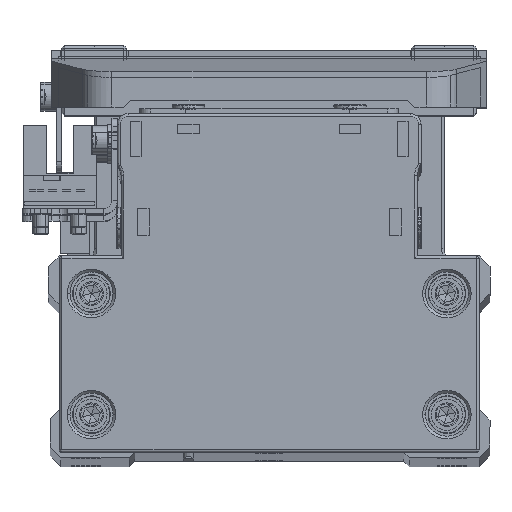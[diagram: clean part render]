
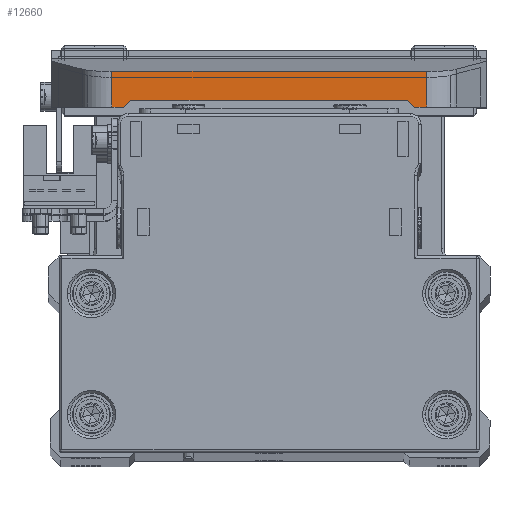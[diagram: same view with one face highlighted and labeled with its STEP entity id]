
A CAD part, top view. The second image highlights one B-rep face of the part: STEP entity #12660.
In plain terms, the highlighted planar face has unit normal (0, 0, 1) as drawn and (-1, 0, 0) by its records, which use the part's own axes.
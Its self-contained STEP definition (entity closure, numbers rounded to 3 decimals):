
#37 = EDGE_CURVE ( 'NONE', #16161, #28054, #35536, .T. ) ;
#635 = CARTESIAN_POINT ( 'NONE',  ( -67.5, 10.6, -29.225 ) ) ;
#913 = EDGE_CURVE ( 'NONE', #33423, #16161, #17189, .T. ) ;
#1165 = LINE ( 'NONE', #13246, #38262 ) ;
#1483 = EDGE_CURVE ( 'NONE', #7880, #12219, #8822, .T. ) ;
#2128 = DIRECTION ( 'NONE',  ( 0., 0., -1. ) ) ;
#3359 = CARTESIAN_POINT ( 'NONE',  ( -67.5, 4., 40.4 ) ) ;
#4654 = EDGE_CURVE ( 'NONE', #37876, #33423, #23824, .T. ) ;
#5049 = DIRECTION ( 'NONE',  ( 1., 0., 0. ) ) ;
#5131 = VECTOR ( 'NONE', #2128, 1000. ) ;
#6006 = CARTESIAN_POINT ( 'NONE',  ( -67.5, 10.6, 27. ) ) ;
#7880 = VERTEX_POINT ( 'NONE', #635 ) ;
#8020 = FACE_OUTER_BOUND ( 'NONE', #13597, .T. ) ;
#8069 = CARTESIAN_POINT ( 'NONE',  ( -67.5, 4., -29.225 ) ) ;
#8375 = CARTESIAN_POINT ( 'NONE',  ( -67.5, 10.6, 27. ) ) ;
#8758 = LINE ( 'NONE', #20850, #13551 ) ;
#8781 = DIRECTION ( 'NONE',  ( 0., 1., 0. ) ) ;
#8822 = LINE ( 'NONE', #20907, #19729 ) ;
#8869 = LINE ( 'NONE', #20954, #16733 ) ;
#12219 = VERTEX_POINT ( 'NONE', #8069 ) ;
#12660 = ADVANCED_FACE ( 'NONE', ( #8020 ), #20096, .F. ) ;
#13246 = CARTESIAN_POINT ( 'NONE',  ( -67.5, 10.6, 40.4 ) ) ;
#13282 = EDGE_CURVE ( 'NONE', #37876, #12219, #30523, .T. ) ;
#13551 = VECTOR ( 'NONE', #32953, 1000. ) ;
#13597 = EDGE_LOOP ( 'NONE', ( #28339, #17017, #28064, #14268, #37447, #34561, #29175, #29534 ) ) ;
#14268 = ORIENTED_EDGE ( 'NONE', *, *, #1483, .T. ) ;
#15429 = DIRECTION ( 'NONE',  ( 0., 0., -1. ) ) ;
#15836 = CARTESIAN_POINT ( 'NONE',  ( -67.5, 4., 29.225 ) ) ;
#16161 = VERTEX_POINT ( 'NONE', #6006 ) ;
#16733 = VECTOR ( 'NONE', #33063, 1000. ) ;
#17017 = ORIENTED_EDGE ( 'NONE', *, *, #30620, .T. ) ;
#17127 = DIRECTION ( 'NONE',  ( 0., 0., -1. ) ) ;
#17189 = LINE ( 'NONE', #29301, #5131 ) ;
#18298 = VECTOR ( 'NONE', #15429, 1000. ) ;
#19729 = VECTOR ( 'NONE', #33015, 1000. ) ;
#20096 = PLANE ( 'NONE',  #30932 ) ;
#20447 = DIRECTION ( 'NONE',  ( 0., -0.655, -0.756 ) ) ;
#20850 = CARTESIAN_POINT ( 'NONE',  ( -67.5, 9.3, 25.5 ) ) ;
#20907 = CARTESIAN_POINT ( 'NONE',  ( -67.5, 4., -29.225 ) ) ;
#20954 = CARTESIAN_POINT ( 'NONE',  ( -67.5, 10.6, -27. ) ) ;
#23237 = VERTEX_POINT ( 'NONE', #33591 ) ;
#23824 = LINE ( 'NONE', #35942, #27755 ) ;
#24067 = VECTOR ( 'NONE', #20447, 1000. ) ;
#25340 = DIRECTION ( 'NONE',  ( 0., 0., -1. ) ) ;
#27755 = VECTOR ( 'NONE', #8781, 1000. ) ;
#28054 = VERTEX_POINT ( 'NONE', #30230 ) ;
#28064 = ORIENTED_EDGE ( 'NONE', *, *, #30366, .T. ) ;
#28204 = EDGE_CURVE ( 'NONE', #28054, #29938, #8758, .T. ) ;
#28339 = ORIENTED_EDGE ( 'NONE', *, *, #28204, .T. ) ;
#29036 = CARTESIAN_POINT ( 'NONE',  ( -67.5, 10.6, 29.225 ) ) ;
#29175 = ORIENTED_EDGE ( 'NONE', *, *, #913, .T. ) ;
#29301 = CARTESIAN_POINT ( 'NONE',  ( -67.5, 10.6, 40.4 ) ) ;
#29534 = ORIENTED_EDGE ( 'NONE', *, *, #37, .T. ) ;
#29938 = VERTEX_POINT ( 'NONE', #31944 ) ;
#30230 = CARTESIAN_POINT ( 'NONE',  ( -67.5, 9.3, 25.5 ) ) ;
#30366 = EDGE_CURVE ( 'NONE', #23237, #7880, #1165, .T. ) ;
#30523 = LINE ( 'NONE', #3359, #18298 ) ;
#30620 = EDGE_CURVE ( 'NONE', #29938, #23237, #8869, .T. ) ;
#30932 = AXIS2_PLACEMENT_3D ( 'NONE', #32212, #5049, #17127 ) ;
#31944 = CARTESIAN_POINT ( 'NONE',  ( -67.5, 9.3, -25.5 ) ) ;
#32212 = CARTESIAN_POINT ( 'NONE',  ( -67.5, 10.6, 40.4 ) ) ;
#32953 = DIRECTION ( 'NONE',  ( 0., 0., -1. ) ) ;
#33015 = DIRECTION ( 'NONE',  ( 0., -1., 0. ) ) ;
#33063 = DIRECTION ( 'NONE',  ( 0., 0.655, -0.756 ) ) ;
#33423 = VERTEX_POINT ( 'NONE', #29036 ) ;
#33591 = CARTESIAN_POINT ( 'NONE',  ( -67.5, 10.6, -27. ) ) ;
#34561 = ORIENTED_EDGE ( 'NONE', *, *, #4654, .T. ) ;
#35536 = LINE ( 'NONE', #8375, #24067 ) ;
#35942 = CARTESIAN_POINT ( 'NONE',  ( -67.5, 10.6, 29.225 ) ) ;
#37447 = ORIENTED_EDGE ( 'NONE', *, *, #13282, .F. ) ;
#37876 = VERTEX_POINT ( 'NONE', #15836 ) ;
#38262 = VECTOR ( 'NONE', #25340, 1000. ) ;
